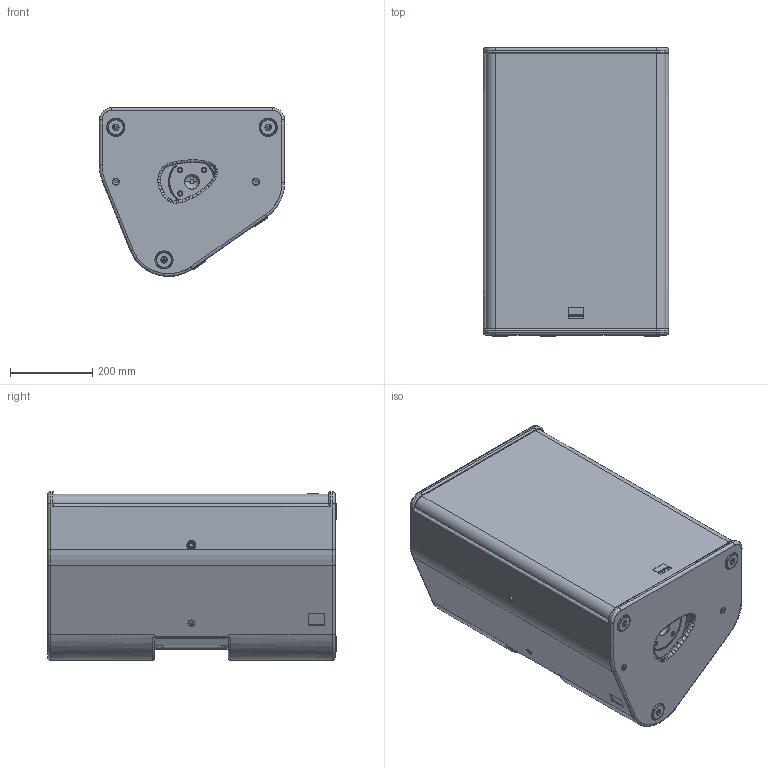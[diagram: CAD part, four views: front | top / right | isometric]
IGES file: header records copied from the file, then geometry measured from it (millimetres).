
Start section: SolidWorks IGES file using analytic representation for surfaces
Global section: file name: C:\Dokumente und Einstellungen\PC_Fabian\Desktop\TS-Serie\Seeburg_TSM15.IGS; native system: SolidWorks 2009; preprocessor: SolidWorks 2009; author: PC_Fabian; date: 121017.134248; units: millimetre
Bounding box: 450 x 701 x 410 mm (x, y, z)
Surface area: 2870155.2 mm2 (no closed solid volume)
Topology: 0 solids, 0 shells, 1090 faces, 13515 edges, 13513 vertices
Faces by surface type: revolution 620, bspline 470
